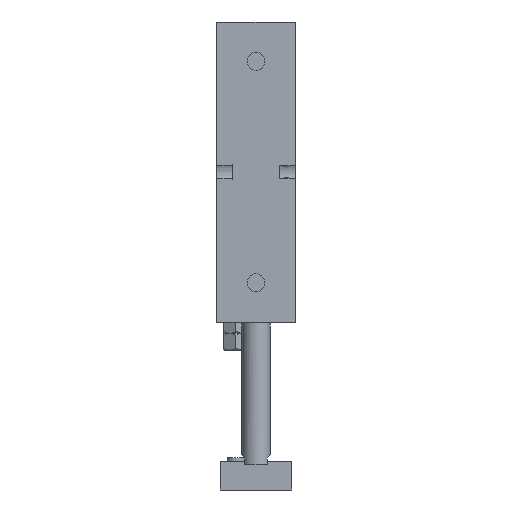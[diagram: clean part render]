
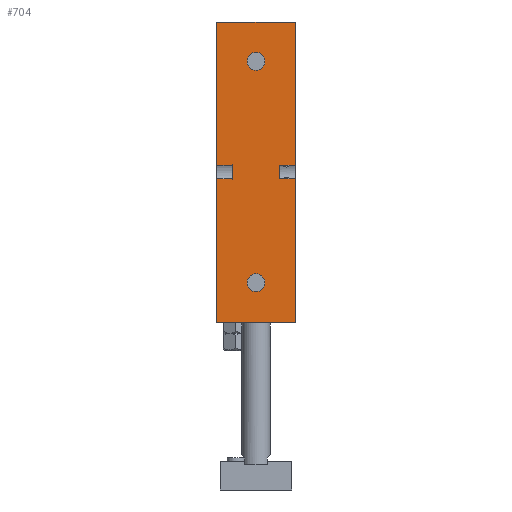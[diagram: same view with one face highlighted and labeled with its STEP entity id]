
A CAD part, front view. The second image highlights one B-rep face of the part: STEP entity #704.
In plain terms, the highlighted planar face has unit normal (0, -1, 0).
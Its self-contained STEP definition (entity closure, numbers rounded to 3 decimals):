
#195=CARTESIAN_POINT('',(2.5,-27.0,120.));
#196=VERTEX_POINT('',#195);
#197=CARTESIAN_POINT('',(0.0,-27.0,120.));
#198=DIRECTION('',(0.0,1.0,0.0));
#199=DIRECTION('',(-1.0,0.0,0.0));
#200=AXIS2_PLACEMENT_3D('',#197,#198,#199);
#201=CIRCLE('',#200,2.5);
#202=EDGE_CURVE('',#196,#196,#201,.T.);
#232=CARTESIAN_POINT('',(2.5,-27.0,58.));
#233=VERTEX_POINT('',#232);
#234=CARTESIAN_POINT('',(0.0,-27.0,58.));
#235=DIRECTION('',(0.0,1.0,0.0));
#236=DIRECTION('',(-1.0,0.0,0.0));
#237=AXIS2_PLACEMENT_3D('',#234,#235,#236);
#238=CIRCLE('',#237,2.5);
#239=EDGE_CURVE('',#233,#233,#238,.T.);
#485=CARTESIAN_POINT('',(-6.6,-27.0,90.936));
#486=VERTEX_POINT('',#485);
#487=CARTESIAN_POINT('',(-6.6,-27.0,87.064));
#488=VERTEX_POINT('',#487);
#489=CARTESIAN_POINT('',(-6.6,-27.0,90.936));
#490=DIRECTION('',(0.0,0.0,-1.0));
#491=VECTOR('',#490,3.873);
#492=LINE('',#489,#491);
#493=EDGE_CURVE('',#486,#488,#492,.T.);
#542=CARTESIAN_POINT('',(-11.,-27.0,90.936));
#543=VERTEX_POINT('',#542);
#544=CARTESIAN_POINT('',(-11.,-27.0,90.936));
#545=DIRECTION('',(1.0,0.0,0.0));
#546=VECTOR('',#545,4.4);
#547=LINE('',#544,#546);
#548=EDGE_CURVE('',#543,#486,#547,.T.);
#550=CARTESIAN_POINT('',(-11.,-27.0,87.064));
#551=VERTEX_POINT('',#550);
#559=CARTESIAN_POINT('',(-6.6,-27.0,87.064));
#560=DIRECTION('',(-1.0,0.0,0.0));
#561=VECTOR('',#560,4.4);
#562=LINE('',#559,#561);
#563=EDGE_CURVE('',#488,#551,#562,.T.);
#618=CARTESIAN_POINT('',(11.,-27.0,47.0));
#619=DIRECTION('',(0.0,-1.0,0.0));
#620=DIRECTION('',(0.0,0.0,-1.0));
#621=AXIS2_PLACEMENT_3D('',#618,#619,#620);
#622=PLANE('',#621);
#623=ORIENTED_EDGE('',*,*,#548,.T.);
#624=ORIENTED_EDGE('',*,*,#493,.T.);
#625=ORIENTED_EDGE('',*,*,#563,.T.);
#626=CARTESIAN_POINT('',(-11.,-27.0,47.0));
#627=VERTEX_POINT('',#626);
#628=CARTESIAN_POINT('',(-11.,-27.0,47.0));
#629=DIRECTION('',(0.0,0.0,1.0));
#630=VECTOR('',#629,40.064);
#631=LINE('',#628,#630);
#632=EDGE_CURVE('',#627,#551,#631,.T.);
#633=ORIENTED_EDGE('',*,*,#632,.F.);
#634=CARTESIAN_POINT('',(11.,-27.0,47.0));
#635=VERTEX_POINT('',#634);
#636=CARTESIAN_POINT('',(11.,-27.0,47.0));
#637=DIRECTION('',(-1.0,0.0,0.0));
#638=VECTOR('',#637,22.);
#639=LINE('',#636,#638);
#640=EDGE_CURVE('',#635,#627,#639,.T.);
#641=ORIENTED_EDGE('',*,*,#640,.F.);
#642=CARTESIAN_POINT('',(11.,-27.0,87.064));
#643=VERTEX_POINT('',#642);
#644=CARTESIAN_POINT('',(11.,-27.0,47.0));
#645=DIRECTION('',(0.0,0.0,1.0));
#646=VECTOR('',#645,40.064);
#647=LINE('',#644,#646);
#648=EDGE_CURVE('',#635,#643,#647,.T.);
#649=ORIENTED_EDGE('',*,*,#648,.T.);
#650=CARTESIAN_POINT('',(6.6,-27.0,87.064));
#651=VERTEX_POINT('',#650);
#652=CARTESIAN_POINT('',(11.,-27.0,87.064));
#653=DIRECTION('',(-1.0,0.0,0.0));
#654=VECTOR('',#653,4.4);
#655=LINE('',#652,#654);
#656=EDGE_CURVE('',#643,#651,#655,.T.);
#657=ORIENTED_EDGE('',*,*,#656,.T.);
#658=CARTESIAN_POINT('',(6.6,-27.0,90.936));
#659=VERTEX_POINT('',#658);
#660=CARTESIAN_POINT('',(6.6,-27.0,87.064));
#661=DIRECTION('',(0.0,0.0,1.0));
#662=VECTOR('',#661,3.873);
#663=LINE('',#660,#662);
#664=EDGE_CURVE('',#651,#659,#663,.T.);
#665=ORIENTED_EDGE('',*,*,#664,.T.);
#666=CARTESIAN_POINT('',(11.,-27.0,90.936));
#667=VERTEX_POINT('',#666);
#668=CARTESIAN_POINT('',(6.6,-27.0,90.936));
#669=DIRECTION('',(1.0,0.0,0.0));
#670=VECTOR('',#669,4.4);
#671=LINE('',#668,#670);
#672=EDGE_CURVE('',#659,#667,#671,.T.);
#673=ORIENTED_EDGE('',*,*,#672,.T.);
#674=CARTESIAN_POINT('',(11.,-27.0,131.0));
#675=VERTEX_POINT('',#674);
#676=CARTESIAN_POINT('',(11.,-27.0,90.936));
#677=DIRECTION('',(0.0,0.0,1.0));
#678=VECTOR('',#677,40.064);
#679=LINE('',#676,#678);
#680=EDGE_CURVE('',#667,#675,#679,.T.);
#681=ORIENTED_EDGE('',*,*,#680,.T.);
#682=CARTESIAN_POINT('',(-11.,-27.0,131.0));
#683=VERTEX_POINT('',#682);
#684=CARTESIAN_POINT('',(11.,-27.0,131.0));
#685=DIRECTION('',(-1.0,0.0,0.0));
#686=VECTOR('',#685,22.);
#687=LINE('',#684,#686);
#688=EDGE_CURVE('',#675,#683,#687,.T.);
#689=ORIENTED_EDGE('',*,*,#688,.T.);
#690=CARTESIAN_POINT('',(-11.,-27.0,90.936));
#691=DIRECTION('',(0.0,0.0,1.0));
#692=VECTOR('',#691,40.064);
#693=LINE('',#690,#692);
#694=EDGE_CURVE('',#543,#683,#693,.T.);
#695=ORIENTED_EDGE('',*,*,#694,.F.);
#696=EDGE_LOOP('',(#623,#624,#625,#633,#641,#649,#657,#665,#673,#681,#689,#695));
#697=FACE_OUTER_BOUND('',#696,.T.);
#698=ORIENTED_EDGE('',*,*,#202,.T.);
#699=EDGE_LOOP('',(#698));
#700=FACE_BOUND('',#699,.T.);
#701=ORIENTED_EDGE('',*,*,#239,.T.);
#702=EDGE_LOOP('',(#701));
#703=FACE_BOUND('',#702,.T.);
#704=ADVANCED_FACE('',(#697,#700,#703),#622,.T.);
